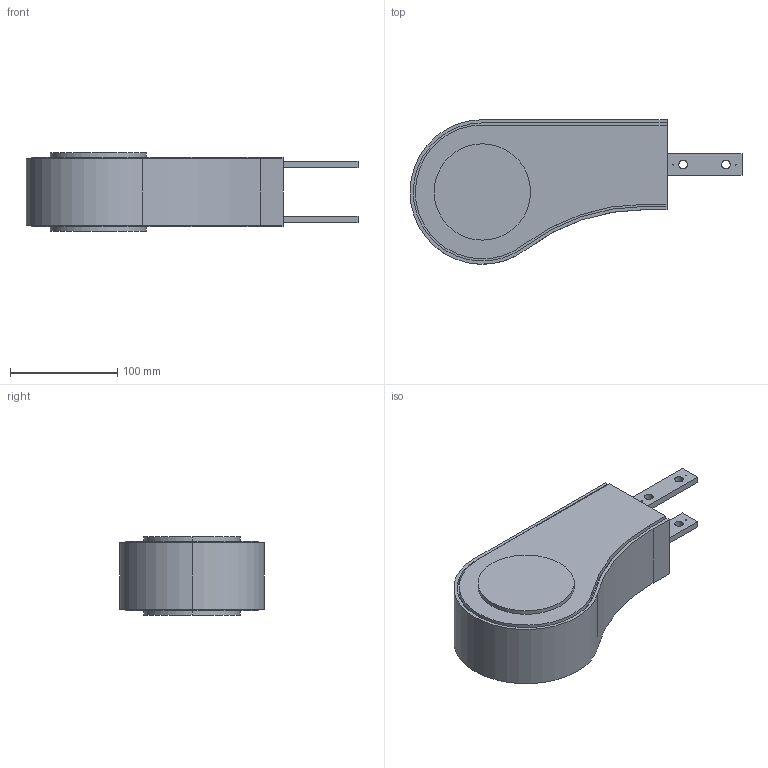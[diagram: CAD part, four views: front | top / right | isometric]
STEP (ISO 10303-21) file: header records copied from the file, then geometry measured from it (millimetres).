
FILE_DESCRIPTION (( 'STEP AP214' ), '1' );
FILE_NAME ('CS SL Aandr. - Omloop.65 Omloop.STEP', '2017-02-08T07:32:46', ( '' ), ( '' ), 'SwSTEP 2.0', 'SolidWorks 2016', '' );
FILE_SCHEMA (( 'AUTOMOTIVE_DESIGN' ));
Length unit declared in the file: millimetre
Products named in the file (1): CS SL Aandr. - Omloop.65 Omloop
Bounding box: 310 x 134.96 x 73 mm (x, y, z)
Volume: 1667223.6 mm3; surface area: 108495.6 mm2
Topology: 1 solids, 1 shells, 60 faces, 162 edges, 108 vertices
Faces by surface type: cylinder 31, plane 29
Entity records: 1974 total; most frequent: DIRECTION 346, CARTESIAN_POINT 331, ORIENTED_EDGE 324, EDGE_CURVE 162, AXIS2_PLACEMENT_3D 123, VERTEX_POINT 108, LINE 100, VECTOR 100
